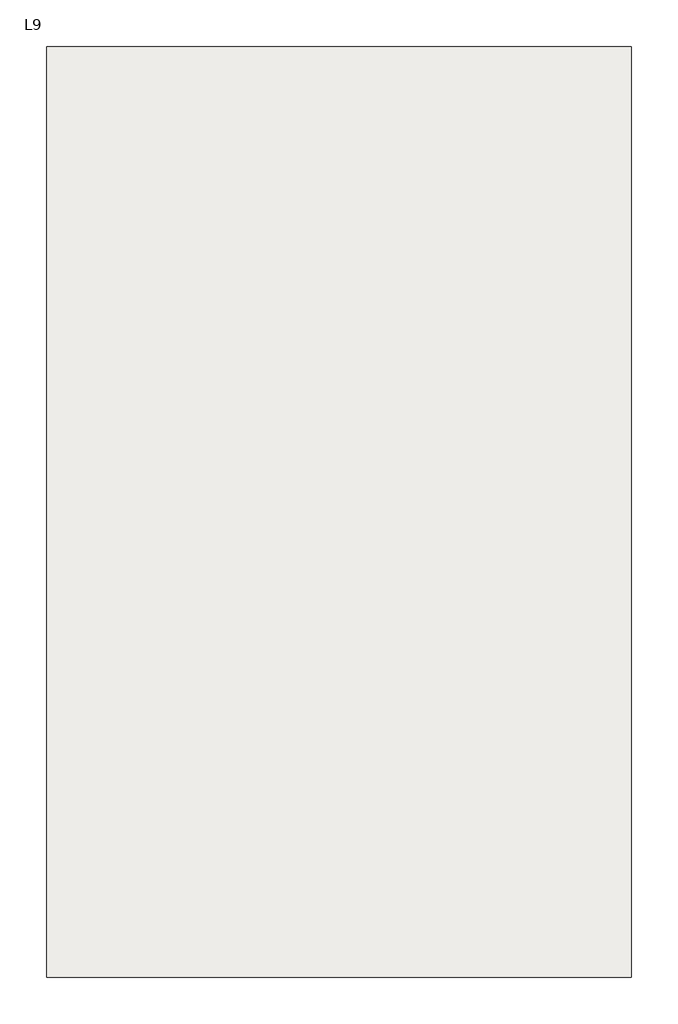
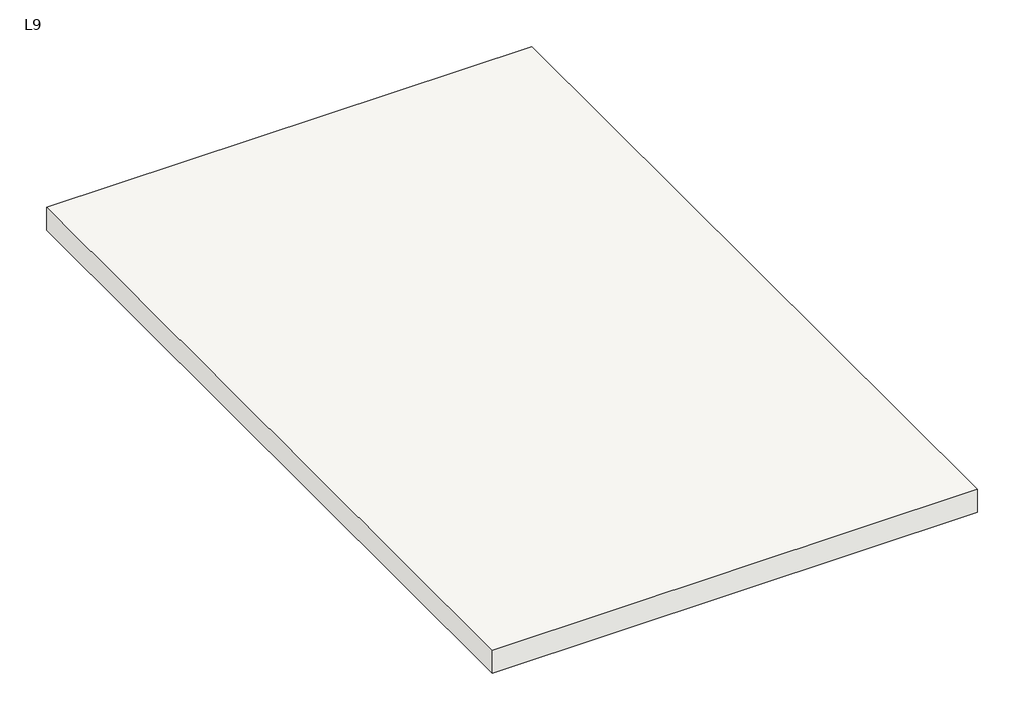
# One storey: 1 slab.
"""IFC4 building model written with IfcOpenShell, lengths in millimetres."""

from ifc_helpers import new_model, si_unit, frame, origin, place, context, project, spatial, polyline, outline, extrude, element, save

model = new_model("IFC4")

# Units and contexts
model_context = context("Model", 3, world=origin())
ifc_project = project(units=[si_unit("LENGTHUNIT", "METRE", prefix="MILLI")], contexts=[model_context])

# Site, building, storey
site = spatial("IfcSite", under=ifc_project)
building = spatial("IfcBuilding", under=site)
storey = spatial("IfcBuildingStorey", under=building, Name="L9", Elevation=11074.4)

# Slab
placement = place(None, origin())
element("IfcSlab", 1, ObjectType="Site 6\"", at=placement, inside=storey, context=model_context, shape_type="SweptSolid", body=[
    extrude(outline(polyline([(19151.6, 1473.1998473), (16103.6060672, 1473.1998473), (16103.6060672, 6324.599468), (19151.6, 6324.599468), (19151.6, 1473.1998473)])), frame((0.0, 0.0, 10922.0), z_axis=(0.0, 0.0, 1.0), x_axis=(1.0, 0.0, 0.0)), (0.0, 0.0, 1.0), 152.4),
])

save(model, "model.ifc")
